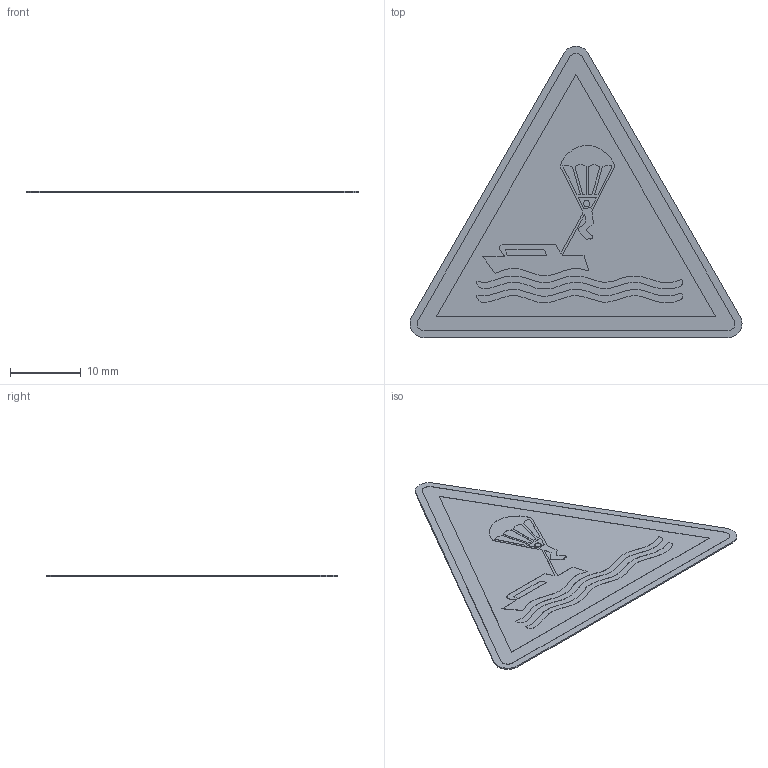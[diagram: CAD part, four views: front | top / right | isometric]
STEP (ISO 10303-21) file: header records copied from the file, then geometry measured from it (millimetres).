
FILE_DESCRIPTION (( 'STEP AP214' ), '1' );
FILE_NAME ('W063_Warnung vor Parasailing.STEP', '2022-03-05T05:29:35', ( '' ), ( '' ), 'SwSTEP 2.0', 'SolidWorks 2021', '' );
FILE_SCHEMA (( 'AUTOMOTIVE_DESIGN' ));
Length unit declared in the file: millimetre
Products named in the file (1): W063_Warnung vor Parasailing
Bounding box: 47.07 x 41.3 x 0.22 mm (x, y, z)
Volume: 222.5 mm3; surface area: 2187.5 mm2
Topology: 1 solids, 1 shells, 308 faces, 882 edges, 588 vertices
Faces by surface type: plane 283, cylinder 25
Entity records: 13142 total; most frequent: CARTESIAN_POINT 1779, ORIENTED_EDGE 1764, DIRECTION 1550, EDGE_CURVE 882, LINE 832, VECTOR 832, VERTEX_POINT 588, AXIS2_PLACEMENT_3D 359
